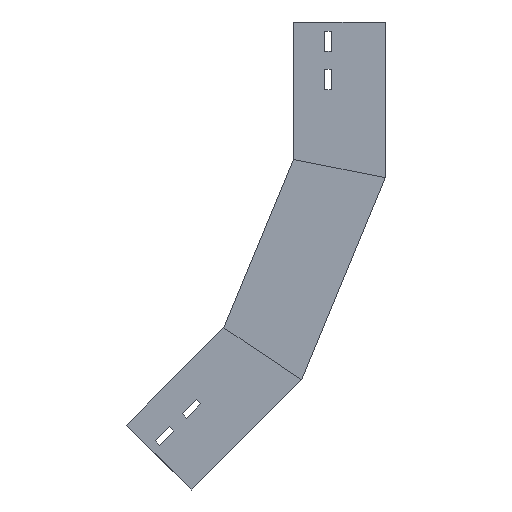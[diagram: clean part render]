
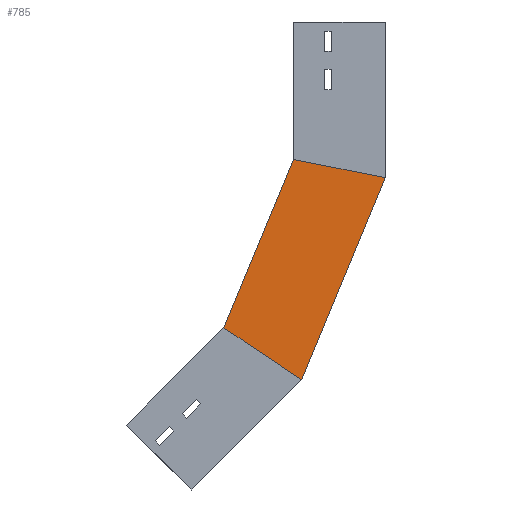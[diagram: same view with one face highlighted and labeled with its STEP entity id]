
A CAD part, left-side view. The second image highlights one B-rep face of the part: STEP entity #785.
In plain terms, the highlighted planar face has unit normal (-1, 0, 0) as drawn and (1, 0, 0) by its records, which use the part's own axes.
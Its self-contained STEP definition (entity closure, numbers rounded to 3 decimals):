
#34 = EDGE_LOOP ( 'NONE', ( #1114, #500, #411, #566 ) ) ;
#62 = DIRECTION ( 'NONE',  ( -1., 0., 0. ) ) ;
#71 = VECTOR ( 'NONE', #1298, 1000. ) ;
#172 = CARTESIAN_POINT ( 'NONE',  ( 0., 91.117, -389.576 ) ) ;
#174 = PLANE ( 'NONE',  #319 ) ;
#222 = VERTEX_POINT ( 'NONE', #498 ) ;
#259 = CARTESIAN_POINT ( 'NONE',  ( 0., 175.893, -332.93 ) ) ;
#264 = LINE ( 'NONE', #810, #71 ) ;
#319 = AXIS2_PLACEMENT_3D ( 'NONE', #1223, #62, #1330 ) ;
#397 = VECTOR ( 'NONE', #1468, 1000. ) ;
#411 = ORIENTED_EDGE ( 'NONE', *, *, #996, .T. ) ;
#453 = VECTOR ( 'NONE', #565, 1000. ) ;
#455 = CARTESIAN_POINT ( 'NONE',  ( 0., 92.388, -131.332 ) ) ;
#476 = EDGE_CURVE ( 'NONE', #623, #544, #1112, .T. ) ;
#498 = CARTESIAN_POINT ( 'NONE',  ( 0., 0., -169.6 ) ) ;
#500 = ORIENTED_EDGE ( 'NONE', *, *, #957, .T. ) ;
#544 = VERTEX_POINT ( 'NONE', #259 ) ;
#565 = DIRECTION ( 'NONE',  ( 0., -0.831, -0.556 ) ) ;
#566 = ORIENTED_EDGE ( 'NONE', *, *, #1259, .F. ) ;
#606 = VECTOR ( 'NONE', #1176, 1000. ) ;
#623 = VERTEX_POINT ( 'NONE', #1397 ) ;
#785 = ADVANCED_FACE ( 'NONE', ( #1338 ), #174, .F. ) ;
#810 = CARTESIAN_POINT ( 'NONE',  ( 0., 32.452, -163.145 ) ) ;
#940 = LINE ( 'NONE', #1411, #606 ) ;
#957 = EDGE_CURVE ( 'NONE', #623, #222, #264, .T. ) ;
#996 = EDGE_CURVE ( 'NONE', #222, #1118, #940, .T. ) ;
#1112 = LINE ( 'NONE', #455, #397 ) ;
#1114 = ORIENTED_EDGE ( 'NONE', *, *, #476, .F. ) ;
#1117 = CARTESIAN_POINT ( 'NONE',  ( 0., 129.74, -363.769 ) ) ;
#1118 = VERTEX_POINT ( 'NONE', #172 ) ;
#1176 = DIRECTION ( 'NONE',  ( 0., 0.383, -0.924 ) ) ;
#1223 = CARTESIAN_POINT ( 'NONE',  ( 0., 0., -169.6 ) ) ;
#1259 = EDGE_CURVE ( 'NONE', #544, #1118, #1456, .T. ) ;
#1298 = DIRECTION ( 'NONE',  ( 0., -0.981, -0.195 ) ) ;
#1330 = DIRECTION ( 'NONE',  ( 0., 0., 1. ) ) ;
#1338 = FACE_OUTER_BOUND ( 'NONE', #34, .T. ) ;
#1397 = CARTESIAN_POINT ( 'NONE',  ( 0., 100., -149.709 ) ) ;
#1411 = CARTESIAN_POINT ( 'NONE',  ( 0., 0., -169.6 ) ) ;
#1456 = LINE ( 'NONE', #1117, #453 ) ;
#1468 = DIRECTION ( 'NONE',  ( 0., 0.383, -0.924 ) ) ;
